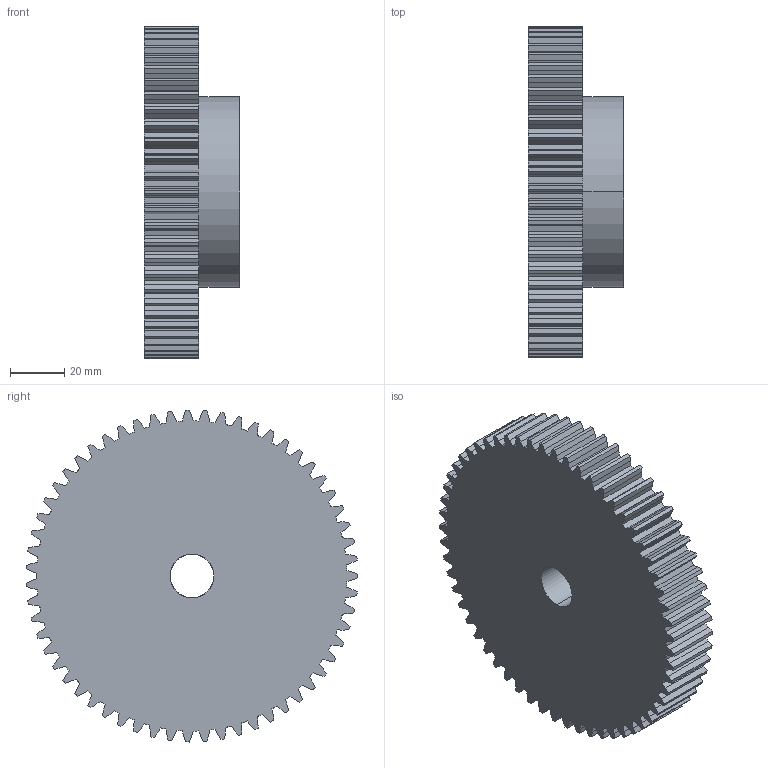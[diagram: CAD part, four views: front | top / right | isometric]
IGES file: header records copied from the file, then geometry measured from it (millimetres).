
Start section: SolidWorks IGES file using analytic representation for surfaces
Global section: file name: C:\Users\Honza\Desktop\Matis (Hotove)\Èelní ozubená kola\PM\MODUL 2\PM 28059.IGS; native system: SolidWorks 2010; preprocessor: SolidWorks 2010; author: Honza; date: 130925.105716; units: millimetre
Bounding box: 35 x 121.94 x 121.98 mm (x, y, z)
Surface area: 40374.1 mm2 (no closed solid volume)
Topology: 0 solids, 0 shells, 361 faces, 2374 edges, 2374 vertices
Faces by surface type: bspline 239, revolution 122
